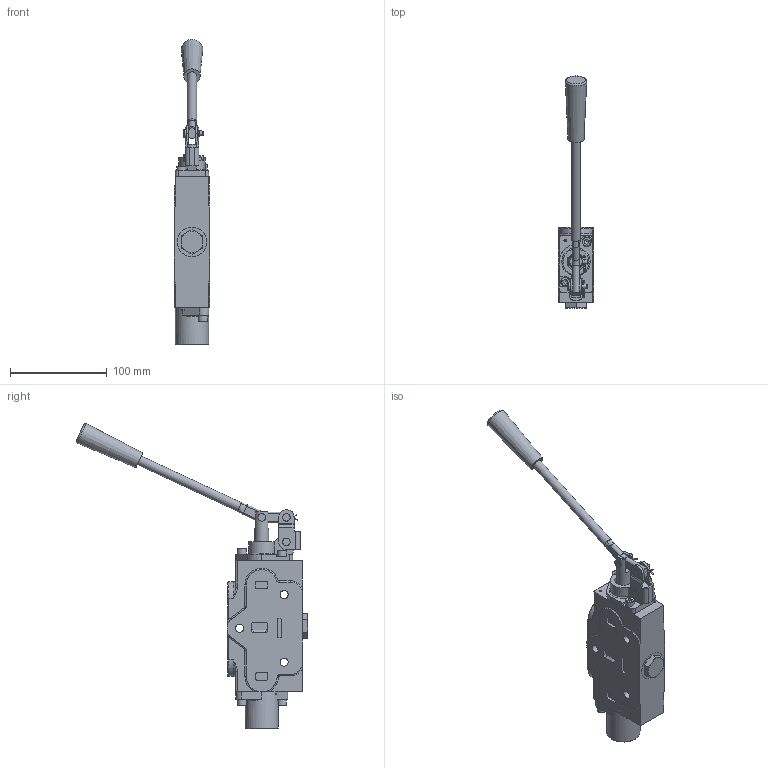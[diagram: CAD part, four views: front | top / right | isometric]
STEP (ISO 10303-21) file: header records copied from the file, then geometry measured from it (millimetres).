
FILE_DESCRIPTION((''),'2;1');
FILE_NAME('C:\Vault\Workspace\z_ShellModels\SV\SVM1ES1_Shell.stp','2012-02-09T12:08:31',('PetersW'),(''),'Autodesk Inventor 2011','Autodesk Inventor 2011','');
FILE_SCHEMA(('AUTOMOTIVE_DESIGN { 1 0 10303 214 1 1 1 1 }'));
Length unit declared in the file: inch
Products named in the file (1): Part50
Bounding box: 36.5 x 239.52 x 315.36 mm (x, y, z)
Volume: 416921.5 mm3; surface area: 79782.4 mm2
Topology: 9 solids, 22 shells, 645 faces, 1621 edges, 1029 vertices
Faces by surface type: plane 271, cylinder 204, bspline 64, torus 52, cone 50, sphere 4
Full cylindrical faces by diameter (mm): 2.381 x1, 2.388 x2, 2.667 x1, 4.661 x3, 4.801 x2, 4.826 x7, 4.978 x5, 6.096 x1, 6.35 x4, 6.401 x2, 6.731 x4, 7.798 x1, 7.925 x3, 8.331 x3, 9.525 x5, 9.931 x1, 11.125 x1, 12.764 x1, 14.275 x1, 15.875 x2, 16.751 x1, 16.942 x2, 17.069 x1, 17.475 x1, 17.501 x2, 17.78 x1, 21.666 x1, 22.225 x2, 26.949 x1, 29.87 x1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
Entity records: 20378 total; most frequent: CARTESIAN_POINT 5146, DIRECTION 2949, ORIENTED_EDGE 2888, EDGE_CURVE 1444, AXIS2_PLACEMENT_3D 1128, VERTEX_POINT 981, EDGE_LOOP 833, VECTOR 693
